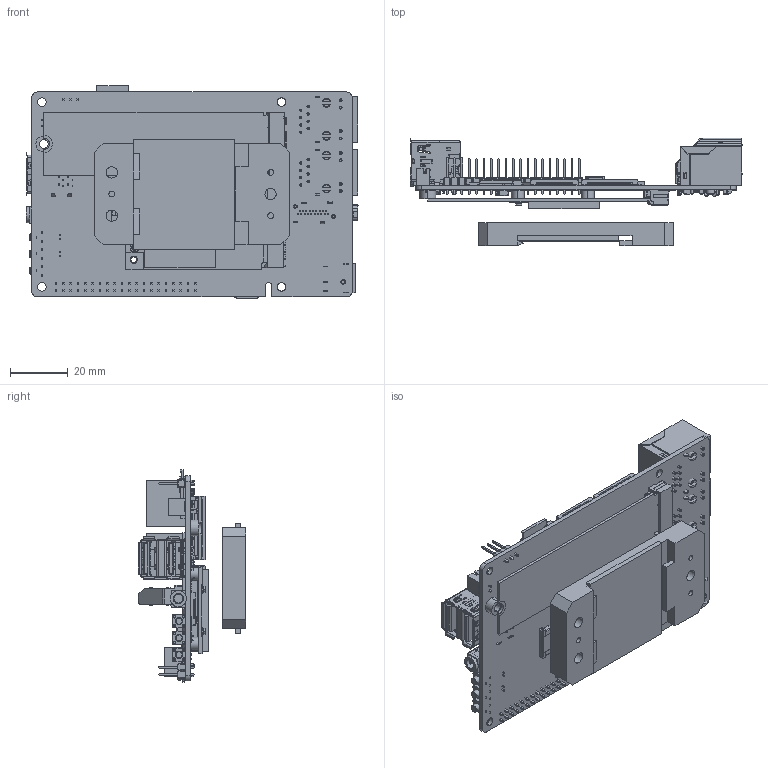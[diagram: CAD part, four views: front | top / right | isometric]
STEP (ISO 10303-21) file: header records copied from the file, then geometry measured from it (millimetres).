
FILE_DESCRIPTION (( 'STEP AP214' ), '1' );
FILE_NAME ('LubanCat 2 PCB.STEP', '2023-03-24T07:48:37', ( '' ), ( '' ), 'SwSTEP 2.0', 'SolidWorks 2021', '' );
FILE_SCHEMA (( 'AUTOMOTIVE_DESIGN' ));
Length unit declared in the file: millimetre
Products named in the file (35): 3PIN; 錨璃4^User Library-pj-393-8; User Library-USB-TYPE-C20; LubanCat 2 PCB; PH 2.0X2脣釱 啞伎 錨璃; 35mm呿蹋絳寢縐諶67.5x35; SIMｿｨmini; FPC12pin0.5mm; SD縐釱赽; M2.0 SSD錨璃; SIMｿｨ1; minipcie 5.2mm; User Library-pj-393-8_PJ-393-8_2; User Library-pj-393-8_PJ-393-8_1; 复件 HR911105A^RK3568推拉样式装配体修改最小间距小于0.8; RK3568PCB1; PH 2.0X2脣釱 啞伎 蚾饜极; User Library-pj-393-8_PJ-393-8_4; 1.25X2pin; User Library-pj-393-8; ZH 2P 脣璃1.5MM; SD縐; x05a20l24t; 渀褐0.5x0.5x8 錨璃; 边三脚侧插侧按按键6mm; IRM-v838M3 綻俋泂え; 聆泂LED; x05a20l30t; 錨璃3^User Library-pj-393-8; M.2 NGFF3.7mm; 72r3759_2007435-1; wifi耀輸酗; USB3.0+2.0橙晚釱赽 錨璃; DC-044A-20A錨璃 DC諉諳; 2.54邧齬齬渀
Assembly tree (42 placements, depth 3):
  LubanCat 2 PCB
    复件 HR911105A^RK3568推拉样式装配体修改最小间距小于0.8  x2
    72r3759_2007435-1
    User Library-USB-TYPE-C20
    聆泂LED  x2
    边三脚侧插侧按按键6mm  x3
    User Library-pj-393-8
      User Library-pj-393-8_PJ-393-8_1
      User Library-pj-393-8_PJ-393-8_2  x4
      User Library-pj-393-8_PJ-393-8_4  x3
      錨璃4^User Library-pj-393-8
    IRM-v838M3 綻俋泂え
    SIMｿｨmini
    SD縐釱赽
    SD縐
    SIMｿｨ1
    2.54邧齬齬渀
    DC-044A-20A錨璃 DC諉諳
    RK3568PCB1
    minipcie 5.2mm
    M.2 NGFF3.7mm
    FPC12pin0.5mm
    3PIN
    x05a20l24t
    x05a20l30t
    ZH 2P 脣璃1.5MM
    1.25X2pin
    PH 2.0X2脣釱 啞伎 蚾饜极
      渀褐0.5x0.5x8 錨璃
      PH 2.0X2脣釱 啞伎 錨璃
    USB3.0+2.0橙晚釱赽 錨璃
    35mm呿蹋絳寢縐諶67.5x35
    wifi耀輸酗
    M2.0 SSD錨璃
  錨璃3^User Library-pj-393-8
Bounding box: 115 x 37.33 x 73.49 mm (x, y, z)
Volume: 46927.2 mm3; surface area: 54615.7 mm2
Topology: 60 solids, 146 shells, 10297 faces, 28384 edges, 18435 vertices
Faces by surface type: plane 7666, cylinder 2115, bspline 322, cone 106, torus 53, sphere 35
Entity records: 348115 total; most frequent: CARTESIAN_POINT 72511, ORIENTED_EDGE 52276, DIRECTION 45807, EDGE_CURVE 26245, LINE 21097, VECTOR 21097, VERTEX_POINT 17096, AXIS2_PLACEMENT_3D 12355
